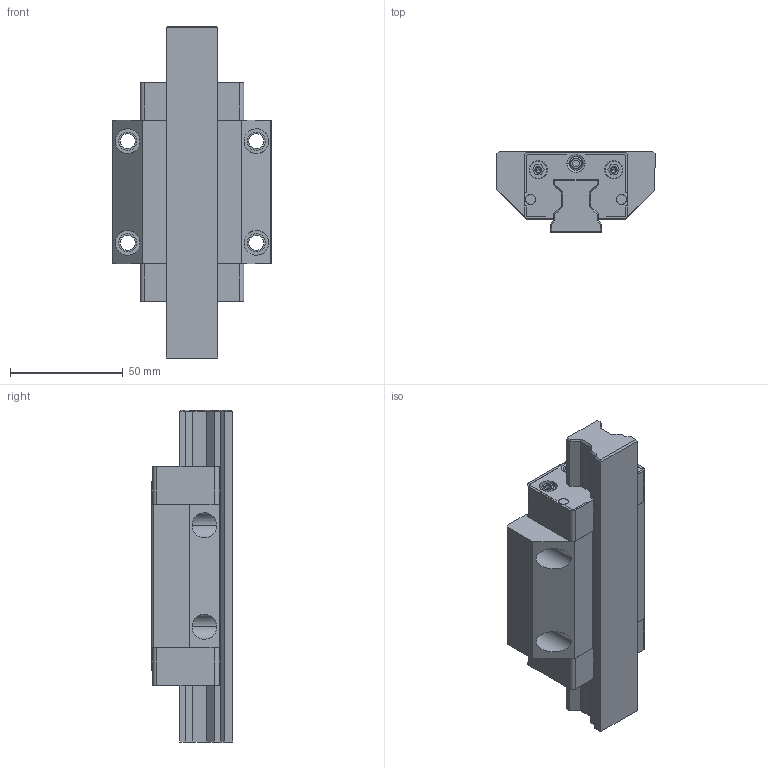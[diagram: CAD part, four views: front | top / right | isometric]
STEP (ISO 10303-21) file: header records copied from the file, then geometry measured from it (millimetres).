
FILE_DESCRIPTION((''),'2;1');
FILE_NAME('R1851_SIZE25_ASM','2021-07-06T04:23:24',('ac91sw'),(''),'CREO PARAMETRIC BY PTC INC, 2020044','CREO PARAMETRIC BY PTC INC, 2020044','');
FILE_SCHEMA(('AUTOMOTIVE_DESIGN { 1 0 10303 214 1 1 1 1 }'));
Length unit declared in the file: millimetre
Products named in the file (6): R1851_SIZE25_SKEL; R1851_SIZE25_FW; R185120702_Z; R1851_SIZE25_PSF; R913034226_Z; R1851_SIZE25_ASM
Assembly tree (7 placements, depth 2):
  R1851_SIZE25_ASM
    R1851_SIZE25_SKEL
    R1851_SIZE25_FW
    R185120702_Z  x2
    R1851_SIZE25_PSF
    R913034226_Z  x2
Bounding box: 70 x 36 x 147 mm (x, y, z)
Volume: 174708.3 mm3; surface area: 54423.6 mm2
Topology: 6 solids, 14 shells, 386 faces, 986 edges, 634 vertices
Faces by surface type: plane 236, cylinder 106, cone 40, torus 4
Entity records: 13683 total; most frequent: CARTESIAN_POINT 1577, DIRECTION 1386, ORIENTED_EDGE 1304, PROPERTY_DEFINITION 692, REPRESENTATION 686, PROPERTY_DEFINITION_REPRESENTATION 686, EDGE_CURVE 666, DESCRIPTIVE_REPRESENTATION_ITEM 642
